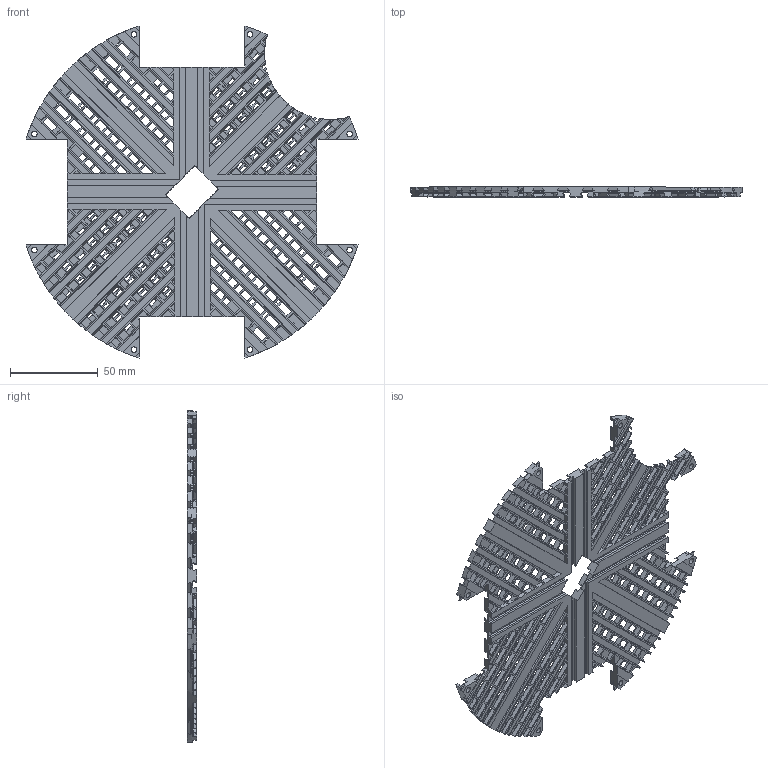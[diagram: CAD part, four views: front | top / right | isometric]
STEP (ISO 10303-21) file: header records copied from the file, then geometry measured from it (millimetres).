
FILE_DESCRIPTION(/* description */ (''),/* implementation_level */ '2;1');
FILE_NAME(/* name */ 'C:/Users/priba/Documents/Temp/SoccerBoard.step',/* time_stamp */ '2019-11-02T07:34:42+01:00',/* author */ (''),/* organization */ (''),/* preprocessor_version */ 'ST-DEVELOPER v18',/* originating_system */ 'Autodesk Translation Framework v8.9.1.1155',/* authorisation */ '');
FILE_SCHEMA (('AUTOMOTIVE_DESIGN { 1 0 10303 214 3 1 1 }'));
Products named in the file (1): SoccerBoard
Bounding box: 188.69 x 5.5 x 188.69 mm (x, y, z)
Volume: 48850.7 mm3; surface area: 91510.1 mm2
Topology: 1 solids, 1 shells, 3719 faces, 11583 edges, 7700 vertices
Faces by surface type: plane 3683, cylinder 31, sphere 5
Full cylindrical faces by diameter (mm): 3.2 x8
Entity records: 127661 total; most frequent: ORIENTED_EDGE 23182, CARTESIAN_POINT 23023, DIRECTION 19685, EDGE_CURVE 11591, LINE 10929, VECTOR 10929, VERTEX_POINT 7700, AXIS2_PLACEMENT_3D 4378
